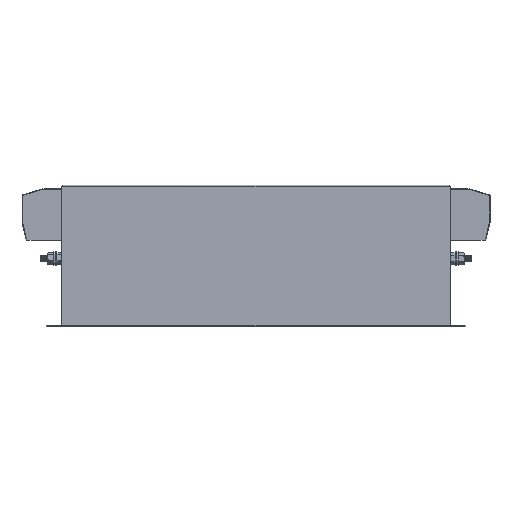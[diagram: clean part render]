
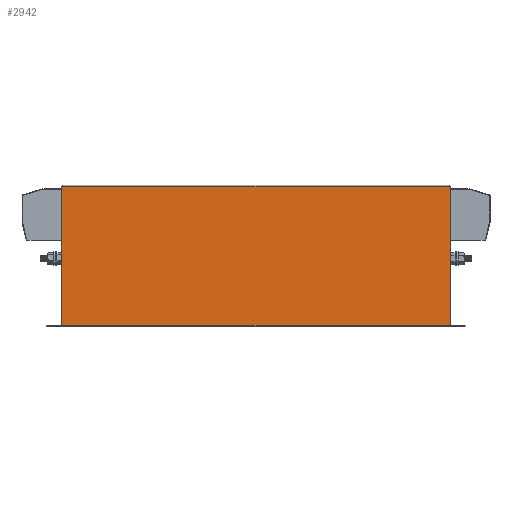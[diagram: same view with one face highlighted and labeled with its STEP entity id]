
A CAD part, top view. The second image highlights one B-rep face of the part: STEP entity #2942.
In plain terms, the highlighted planar face has unit normal (0, 0, 1).
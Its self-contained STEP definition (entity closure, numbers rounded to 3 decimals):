
#10 = LINE ( 'NONE', #3923, #5724 ) ;
#135 = DIRECTION ( 'NONE',  ( 0., -1., 0. ) ) ;
#331 = LINE ( 'NONE', #5998, #915 ) ;
#860 = AXIS2_PLACEMENT_3D ( 'NONE', #6851, #4654, #5440 ) ;
#915 = VECTOR ( 'NONE', #3728, 1000. ) ;
#1900 = VERTEX_POINT ( 'NONE', #9379 ) ;
#2151 = CARTESIAN_POINT ( 'NONE',  ( 385., 133.5, 1.5 ) ) ;
#2348 = DIRECTION ( 'NONE',  ( -1., 0., 0. ) ) ;
#2464 = PLANE ( 'NONE',  #860 ) ;
#2942 = ADVANCED_FACE ( 'NONE', ( #6412 ), #2464, .F. ) ;
#3408 = VECTOR ( 'NONE', #135, 1000. ) ;
#3612 = EDGE_CURVE ( 'NONE', #1900, #5551, #331, .T. ) ;
#3728 = DIRECTION ( 'NONE',  ( 0., -1., 0. ) ) ;
#3923 = CARTESIAN_POINT ( 'NONE',  ( 15., 133.5, 1.5 ) ) ;
#4222 = ORIENTED_EDGE ( 'NONE', *, *, #3612, .T. ) ;
#4349 = ORIENTED_EDGE ( 'NONE', *, *, #4630, .T. ) ;
#4386 = ORIENTED_EDGE ( 'NONE', *, *, #8489, .T. ) ;
#4630 = EDGE_CURVE ( 'NONE', #7944, #1900, #10, .T. ) ;
#4654 = DIRECTION ( 'NONE',  ( 0., 0., -1. ) ) ;
#4827 = LINE ( 'NONE', #8423, #3408 ) ;
#5218 = CARTESIAN_POINT ( 'NONE',  ( 15., 1.5, 1.5 ) ) ;
#5440 = DIRECTION ( 'NONE',  ( -1., 0., 0. ) ) ;
#5541 = LINE ( 'NONE', #9396, #7646 ) ;
#5551 = VERTEX_POINT ( 'NONE', #5218 ) ;
#5724 = VECTOR ( 'NONE', #2348, 1000. ) ;
#5998 = CARTESIAN_POINT ( 'NONE',  ( 15., 135., 1.5 ) ) ;
#6309 = EDGE_CURVE ( 'NONE', #7944, #9120, #4827, .T. ) ;
#6412 = FACE_OUTER_BOUND ( 'NONE', #8948, .T. ) ;
#6851 = CARTESIAN_POINT ( 'NONE',  ( 15., 135., 1.5 ) ) ;
#6864 = ORIENTED_EDGE ( 'NONE', *, *, #6309, .F. ) ;
#7448 = CARTESIAN_POINT ( 'NONE',  ( 385., 1.5, 1.5 ) ) ;
#7646 = VECTOR ( 'NONE', #9430, 1000. ) ;
#7944 = VERTEX_POINT ( 'NONE', #2151 ) ;
#8423 = CARTESIAN_POINT ( 'NONE',  ( 385., 135., 1.5 ) ) ;
#8489 = EDGE_CURVE ( 'NONE', #5551, #9120, #5541, .T. ) ;
#8948 = EDGE_LOOP ( 'NONE', ( #6864, #4349, #4222, #4386 ) ) ;
#9120 = VERTEX_POINT ( 'NONE', #7448 ) ;
#9379 = CARTESIAN_POINT ( 'NONE',  ( 15., 133.5, 1.5 ) ) ;
#9396 = CARTESIAN_POINT ( 'NONE',  ( 15., 1.5, 1.5 ) ) ;
#9430 = DIRECTION ( 'NONE',  ( 1., 0., 0. ) ) ;
